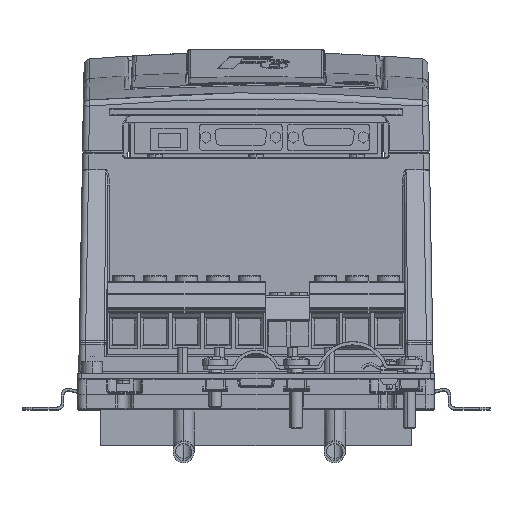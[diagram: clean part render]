
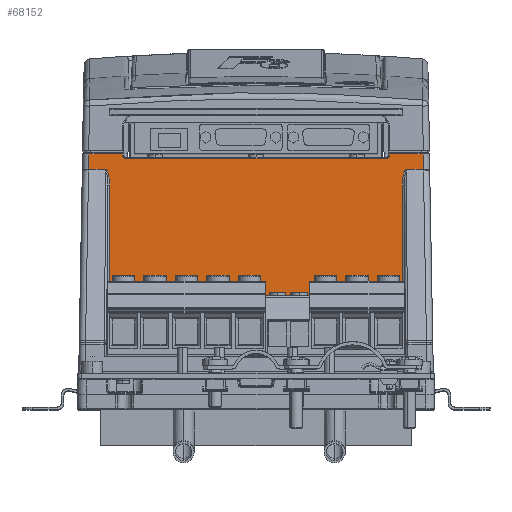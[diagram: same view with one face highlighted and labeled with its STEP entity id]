
A CAD part, top view. The second image highlights one B-rep face of the part: STEP entity #68152.
In plain terms, the highlighted planar face has unit normal (0, 0, 1).
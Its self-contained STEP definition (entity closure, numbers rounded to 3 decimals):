
#1161 = EDGE_CURVE ( 'NONE', #45777, #94235, #91772, .T. ) ;
#1709 = CARTESIAN_POINT ( 'NONE',  ( -63.5, 89.215, 124. ) ) ;
#2104 = CARTESIAN_POINT ( 'NONE',  ( 49.191, 46.6, 124. ) ) ;
#2906 = CARTESIAN_POINT ( 'NONE',  ( 71.729, 41.234, 124. ) ) ;
#3488 = ORIENTED_EDGE ( 'NONE', *, *, #109765, .T. ) ;
#5945 = LINE ( 'NONE', #93558, #89815 ) ;
#6111 = EDGE_CURVE ( 'NONE', #18746, #108989, #34992, .T. ) ;
#6408 = DIRECTION ( 'NONE',  ( 0., 1., 0. ) ) ;
#7066 = EDGE_CURVE ( 'NONE', #44550, #37434, #5945, .T. ) ;
#10146 = VERTEX_POINT ( 'NONE', #41226 ) ;
#10200 = AXIS2_PLACEMENT_3D ( 'NONE', #110167, #23815, #100710 ) ;
#10408 = VECTOR ( 'NONE', #69152, 1000. ) ;
#11098 = CARTESIAN_POINT ( 'NONE',  ( -63.5, 47.6, 124. ) ) ;
#11916 = EDGE_CURVE ( 'NONE', #45777, #81358, #17114, .T. ) ;
#12057 = CARTESIAN_POINT ( 'NONE',  ( -71.729, 41.234, 124. ) ) ;
#12701 = ORIENTED_EDGE ( 'NONE', *, *, #116065, .F. ) ;
#14169 = EDGE_CURVE ( 'NONE', #81358, #42551, #77634, .T. ) ;
#14411 = CARTESIAN_POINT ( 'NONE',  ( 69.763, 33.786, 124. ) ) ;
#17114 = LINE ( 'NONE', #63775, #71470 ) ;
#18746 = VERTEX_POINT ( 'NONE', #123324 ) ;
#19399 = CARTESIAN_POINT ( 'NONE',  ( 70.573, 41.234, 124. ) ) ;
#19503 = EDGE_CURVE ( 'NONE', #122831, #52977, #44713, .T. ) ;
#21827 = VERTEX_POINT ( 'NONE', #113560 ) ;
#23815 = DIRECTION ( 'NONE',  ( 0., 0., 1. ) ) ;
#26019 = CARTESIAN_POINT ( 'NONE',  ( -84.5, 48.6, 124. ) ) ;
#26476 = CARTESIAN_POINT ( 'NONE',  ( 63.5, 48.6, 124. ) ) ;
#26501 = CARTESIAN_POINT ( 'NONE',  ( 62.5, 46.6, 124. ) ) ;
#27765 = CARTESIAN_POINT ( 'NONE',  ( 79.633, 48.6, 124. ) ) ;
#29236 = VERTEX_POINT ( 'NONE', #107479 ) ;
#31278 = CARTESIAN_POINT ( 'NONE',  ( 78.857, 92.127, 124. ) ) ;
#31985 = VECTOR ( 'NONE', #41352, 1000. ) ;
#32568 = VECTOR ( 'NONE', #72640, 1000. ) ;
#34181 =( BOUNDED_CURVE ( )  B_SPLINE_CURVE ( 3, ( #48435, #103300, #56038, #37766 ),
 .UNSPECIFIED., .F., .T. ) 
 B_SPLINE_CURVE_WITH_KNOTS ( ( 4, 4 ),
 ( 6.282, 7.836 ),
 .UNSPECIFIED. ) 
 CURVE ( )  GEOMETRIC_REPRESENTATION_ITEM ( )  RATIONAL_B_SPLINE_CURVE ( ( 1., 0.809, 0.809, 1. ) ) 
 REPRESENTATION_ITEM ( '' )  );
#34992 = LINE ( 'NONE', #82830, #115802 ) ;
#37142 = CARTESIAN_POINT ( 'NONE',  ( 71.729, 41.234, 124. ) ) ;
#37434 = VERTEX_POINT ( 'NONE', #26476 ) ;
#37766 = CARTESIAN_POINT ( 'NONE',  ( -69.763, 33.786, 124. ) ) ;
#38049 = PLANE ( 'NONE',  #114908 ) ;
#39275 = FACE_OUTER_BOUND ( 'NONE', #44243, .T. ) ;
#39824 = VECTOR ( 'NONE', #108039, 1000. ) ;
#40213 = LINE ( 'NONE', #86212, #10408 ) ;
#41226 = CARTESIAN_POINT ( 'NONE',  ( 79.765, 41.234, 124. ) ) ;
#41352 = DIRECTION ( 'NONE',  ( -0.018, 1., 0. ) ) ;
#42551 = VERTEX_POINT ( 'NONE', #2906 ) ;
#43848 = DIRECTION ( 'NONE',  ( -1., 0., 0. ) ) ;
#44243 = EDGE_LOOP ( 'NONE', ( #91966, #83037, #12701, #59534, #107723, #124331, #121862, #92876, #3488, #79589, #91494, #60451, #112656, #52589, #92434, #91166 ) ) ;
#44550 = VERTEX_POINT ( 'NONE', #27765 ) ;
#44713 = CIRCLE ( 'NONE', #80793, 1. ) ;
#45777 = VERTEX_POINT ( 'NONE', #116386 ) ;
#45820 = VERTEX_POINT ( 'NONE', #11098 ) ;
#47857 = CARTESIAN_POINT ( 'NONE',  ( 63.5, 89.215, 124. ) ) ;
#48055 = EDGE_CURVE ( 'NONE', #21827, #18746, #124286, .T. ) ;
#48435 = CARTESIAN_POINT ( 'NONE',  ( -71.729, 41.234, 124. ) ) ;
#52589 = ORIENTED_EDGE ( 'NONE', *, *, #113391, .T. ) ;
#52977 = VERTEX_POINT ( 'NONE', #118931 ) ;
#55110 = VERTEX_POINT ( 'NONE', #107706 ) ;
#56038 = CARTESIAN_POINT ( 'NONE',  ( -69.763, 38.164, 124. ) ) ;
#58402 = CARTESIAN_POINT ( 'NONE',  ( -62.5, 46.6, 124. ) ) ;
#59399 = CARTESIAN_POINT ( 'NONE',  ( -84.5, 89.215, 124. ) ) ;
#59534 = ORIENTED_EDGE ( 'NONE', *, *, #71215, .T. ) ;
#60202 = DIRECTION ( 'NONE',  ( 1., 0., 0. ) ) ;
#60451 = ORIENTED_EDGE ( 'NONE', *, *, #14169, .T. ) ;
#63775 = CARTESIAN_POINT ( 'NONE',  ( 69.763, 89.215, 124. ) ) ;
#64584 = CIRCLE ( 'NONE', #10200, 1. ) ;
#65258 = CARTESIAN_POINT ( 'NONE',  ( -84.5, -47.109, 124. ) ) ;
#67544 = DIRECTION ( 'NONE',  ( 0., 0., 1. ) ) ;
#67787 = LINE ( 'NONE', #106863, #80167 ) ;
#68152 = ADVANCED_FACE ( 'NONE', ( #39275 ), #38049, .F. ) ;
#69152 = DIRECTION ( 'NONE',  ( 0., -1., 0. ) ) ;
#71215 = EDGE_CURVE ( 'NONE', #45820, #55110, #77346, .T. ) ;
#71470 = VECTOR ( 'NONE', #6408, 1000. ) ;
#72640 = DIRECTION ( 'NONE',  ( -1., 0., 0. ) ) ;
#73387 = DIRECTION ( 'NONE',  ( 1., 0., 0. ) ) ;
#77346 = LINE ( 'NONE', #1709, #78935 ) ;
#77634 =( BOUNDED_CURVE ( )  B_SPLINE_CURVE ( 3, ( #14411, #110863, #19399, #37142 ),
 .UNSPECIFIED., .F., .T. ) 
 B_SPLINE_CURVE_WITH_KNOTS ( ( 4, 4 ),
 ( 4.73, 6.284 ),
 .UNSPECIFIED. ) 
 CURVE ( )  GEOMETRIC_REPRESENTATION_ITEM ( )  RATIONAL_B_SPLINE_CURVE ( ( 1., 0.809, 0.809, 1. ) ) 
 REPRESENTATION_ITEM ( '' )  );
#78359 = EDGE_CURVE ( 'NONE', #55110, #21827, #120511, .T. ) ;
#78935 = VECTOR ( 'NONE', #106998, 1000. ) ;
#79242 = LINE ( 'NONE', #47857, #97652 ) ;
#79589 = ORIENTED_EDGE ( 'NONE', *, *, #1161, .F. ) ;
#79697 = LINE ( 'NONE', #31278, #31985 ) ;
#80167 = VECTOR ( 'NONE', #60202, 1000. ) ;
#80793 = AXIS2_PLACEMENT_3D ( 'NONE', #95929, #67544, #87067 ) ;
#81358 = VERTEX_POINT ( 'NONE', #115231 ) ;
#82830 = CARTESIAN_POINT ( 'NONE',  ( -71.729, 41.234, 124. ) ) ;
#83037 = ORIENTED_EDGE ( 'NONE', *, *, #85647, .T. ) ;
#83488 = EDGE_CURVE ( 'NONE', #37434, #52977, #79242, .T. ) ;
#84700 = VERTEX_POINT ( 'NONE', #58402 ) ;
#85647 = EDGE_CURVE ( 'NONE', #122831, #84700, #113914, .T. ) ;
#86212 = CARTESIAN_POINT ( 'NONE',  ( -69.763, 89.215, 124. ) ) ;
#87067 = DIRECTION ( 'NONE',  ( -1., 0., 0. ) ) ;
#89815 = VECTOR ( 'NONE', #43848, 1000. ) ;
#91166 = ORIENTED_EDGE ( 'NONE', *, *, #83488, .T. ) ;
#91494 = ORIENTED_EDGE ( 'NONE', *, *, #11916, .T. ) ;
#91772 = LINE ( 'NONE', #65258, #109013 ) ;
#91796 = VECTOR ( 'NONE', #122418, 1000. ) ;
#91966 = ORIENTED_EDGE ( 'NONE', *, *, #19503, .F. ) ;
#92434 = ORIENTED_EDGE ( 'NONE', *, *, #7066, .T. ) ;
#92876 = ORIENTED_EDGE ( 'NONE', *, *, #105874, .T. ) ;
#93558 = CARTESIAN_POINT ( 'NONE',  ( -84.5, 48.6, 124. ) ) ;
#94235 = VERTEX_POINT ( 'NONE', #100306 ) ;
#95929 = CARTESIAN_POINT ( 'NONE',  ( 62.5, 47.6, 124. ) ) ;
#97652 = VECTOR ( 'NONE', #115241, 1000. ) ;
#97839 = DIRECTION ( 'NONE',  ( 0., 0., -1. ) ) ;
#100306 = CARTESIAN_POINT ( 'NONE',  ( -69.763, -47.109, 124. ) ) ;
#100710 = DIRECTION ( 'NONE',  ( -1., 0., 0. ) ) ;
#103300 = CARTESIAN_POINT ( 'NONE',  ( -70.573, 41.234, 124. ) ) ;
#105874 = EDGE_CURVE ( 'NONE', #108989, #29236, #34181, .T. ) ;
#106289 = EDGE_CURVE ( 'NONE', #42551, #10146, #67787, .T. ) ;
#106863 = CARTESIAN_POINT ( 'NONE',  ( 79.767, 41.234, 124. ) ) ;
#106998 = DIRECTION ( 'NONE',  ( 0., 1., 0. ) ) ;
#107479 = CARTESIAN_POINT ( 'NONE',  ( -69.763, 33.786, 124. ) ) ;
#107706 = CARTESIAN_POINT ( 'NONE',  ( -63.5, 48.6, 124. ) ) ;
#107723 = ORIENTED_EDGE ( 'NONE', *, *, #78359, .T. ) ;
#108039 = DIRECTION ( 'NONE',  ( -1., 0., 0. ) ) ;
#108989 = VERTEX_POINT ( 'NONE', #12057 ) ;
#109013 = VECTOR ( 'NONE', #121967, 1000. ) ;
#109765 = EDGE_CURVE ( 'NONE', #29236, #94235, #40213, .T. ) ;
#110167 = CARTESIAN_POINT ( 'NONE',  ( -62.5, 47.6, 124. ) ) ;
#110863 = CARTESIAN_POINT ( 'NONE',  ( 69.763, 38.164, 124. ) ) ;
#112656 = ORIENTED_EDGE ( 'NONE', *, *, #106289, .T. ) ;
#113391 = EDGE_CURVE ( 'NONE', #10146, #44550, #79697, .T. ) ;
#113560 = CARTESIAN_POINT ( 'NONE',  ( -79.633, 48.6, 124. ) ) ;
#113914 = LINE ( 'NONE', #2104, #39824 ) ;
#114843 = CARTESIAN_POINT ( 'NONE',  ( -78.911, 89.115, 124. ) ) ;
#114908 = AXIS2_PLACEMENT_3D ( 'NONE', #59399, #97839, #116105 ) ;
#115231 = CARTESIAN_POINT ( 'NONE',  ( 69.763, 33.786, 124. ) ) ;
#115241 = DIRECTION ( 'NONE',  ( 0., -1., 0. ) ) ;
#115802 = VECTOR ( 'NONE', #73387, 1000. ) ;
#116065 = EDGE_CURVE ( 'NONE', #45820, #84700, #64584, .T. ) ;
#116105 = DIRECTION ( 'NONE',  ( -1., 0., 0. ) ) ;
#116386 = CARTESIAN_POINT ( 'NONE',  ( 69.763, -47.109, 124. ) ) ;
#118931 = CARTESIAN_POINT ( 'NONE',  ( 63.5, 47.6, 124. ) ) ;
#120511 = LINE ( 'NONE', #26019, #32568 ) ;
#121862 = ORIENTED_EDGE ( 'NONE', *, *, #6111, .T. ) ;
#121967 = DIRECTION ( 'NONE',  ( -1., 0., 0. ) ) ;
#122418 = DIRECTION ( 'NONE',  ( -0.018, -1., 0. ) ) ;
#122831 = VERTEX_POINT ( 'NONE', #26501 ) ;
#123324 = CARTESIAN_POINT ( 'NONE',  ( -79.765, 41.234, 124. ) ) ;
#124286 = LINE ( 'NONE', #114843, #91796 ) ;
#124331 = ORIENTED_EDGE ( 'NONE', *, *, #48055, .T. ) ;
